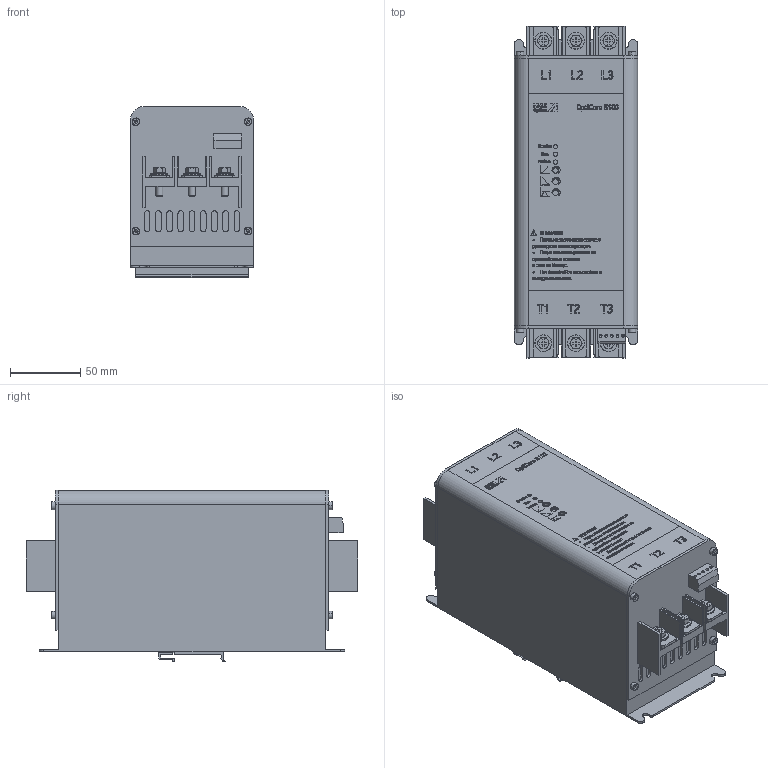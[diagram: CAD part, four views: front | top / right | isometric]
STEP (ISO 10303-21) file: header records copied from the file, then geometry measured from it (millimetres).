
FILE_DESCRIPTION (( 'STEP AP214' ), '1' );
FILE_NAME ('捘 OptiCore S100_45_55kW.STEP', '2023-07-27T07:26:01', ( '' ), ( '' ), 'SwSTEP 2.0', 'SolidWorks 2023', '' );
FILE_SCHEMA (( 'AUTOMOTIVE_DESIGN' ));
Length unit declared in the file: millimetre
Products named in the file (14): Клемма_L_Z_; Клемма_L; Клемма вставная; socket head cap screw_din_DIN 912 M3 x 5 --- 5N; Деталь_P; Кронштейн; Шайба; hex bolts with slot on head grade ab gb+_GB_FASTENER_BOLT_HBSH M5X16-Simplified; Пластина; СБ OptiCore S100_45_55kW; Клемма_c_Z; Деталь_P_Z; Корпус; Клемма_c
Assembly tree (31 placements, depth 2):
  СБ OptiCore S100_45_55kW
    Корпус
    Пластина  x2
    Деталь_P
    Деталь_P_Z
    Клемма_c
    Клемма_c_Z
    Клемма_L
    Клемма_L_Z_
    socket head cap screw_din_DIN 912 M3 x 5 --- 5N  x8
    Шайба  x6
    Кронштейн
    Клемма вставная
    hex bolts with slot on head grade ab gb+_GB_FASTENER_BOLT_HBSH M5X16-Simplified  x6
Bounding box: 88 x 237 x 122.21 mm (x, y, z)
Volume: 2000985.8 mm3; surface area: 179865.3 mm2
Topology: 37 solids, 37 shells, 4473 faces, 11884 edges, 7805 vertices
Faces by surface type: plane 3010, bspline 952, cylinder 303, cone 152, torus 56
Entity records: 193880 total; most frequent: CARTESIAN_POINT 69990, ORIENTED_EDGE 21136, DIRECTION 15123, EDGE_CURVE 10568, VECTOR 8199, LINE 8199, VERTEX_POINT 7025, EDGE_LOOP 4321
